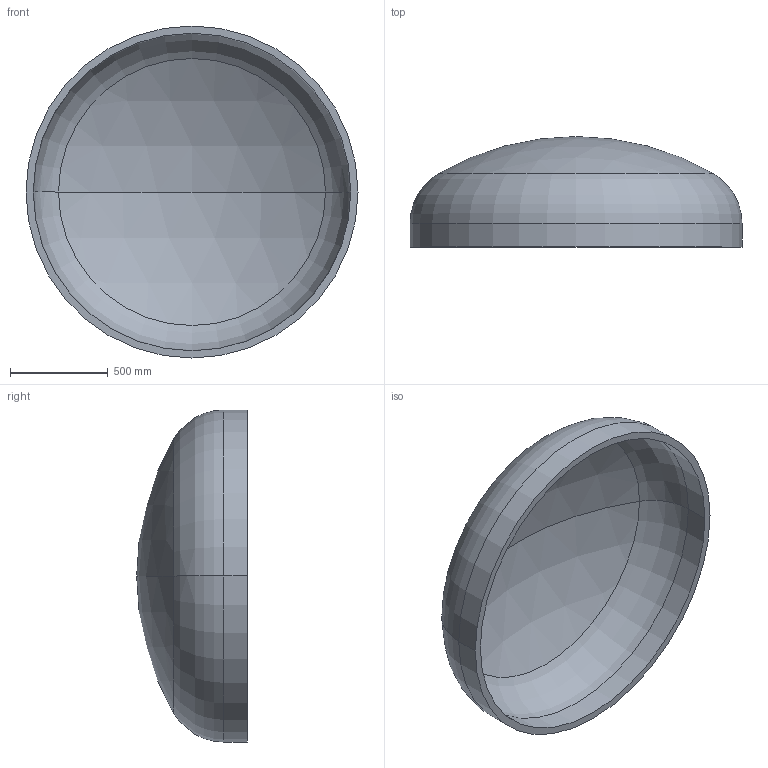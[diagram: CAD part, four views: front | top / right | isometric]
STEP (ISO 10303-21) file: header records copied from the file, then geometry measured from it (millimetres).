
FILE_DESCRIPTION (( 'STEP AP203' ), '1' );
FILE_NAME ('DIN 28013 Korbbogenform_-_Boden DIN 28013 - 1700 x 120 - I - s=37.step', '2016-07-01T11:48:01', ( '' ), ( '' ), 'SwSTEP 2.0', 'SolidWorks 2013', '' );
FILE_SCHEMA (( 'CONFIG_CONTROL_DESIGN' ));
Length unit declared in the file: millimetre
Products named in the file (1): DIN 28013 Korbbogenform_-_Boden DIN 28013 - 1700 x 120 - I - s=37
Bounding box: 1700 x 566.11 x 1700 mm (x, y, z)
Volume: 136075340.1 mm3; surface area: 7551594.1 mm2
Topology: 1 solids, 1 shells, 13 faces, 24 edges, 14 vertices
Faces by surface type: torus 4, cylinder 4, sphere 4, plane 1
Entity records: 407 total; most frequent: DIRECTION 72, CARTESIAN_POINT 52, ORIENTED_EDGE 48, AXIS2_PLACEMENT_3D 34, EDGE_CURVE 24, CIRCLE 20, EDGE_LOOP 14, VERTEX_POINT 14
